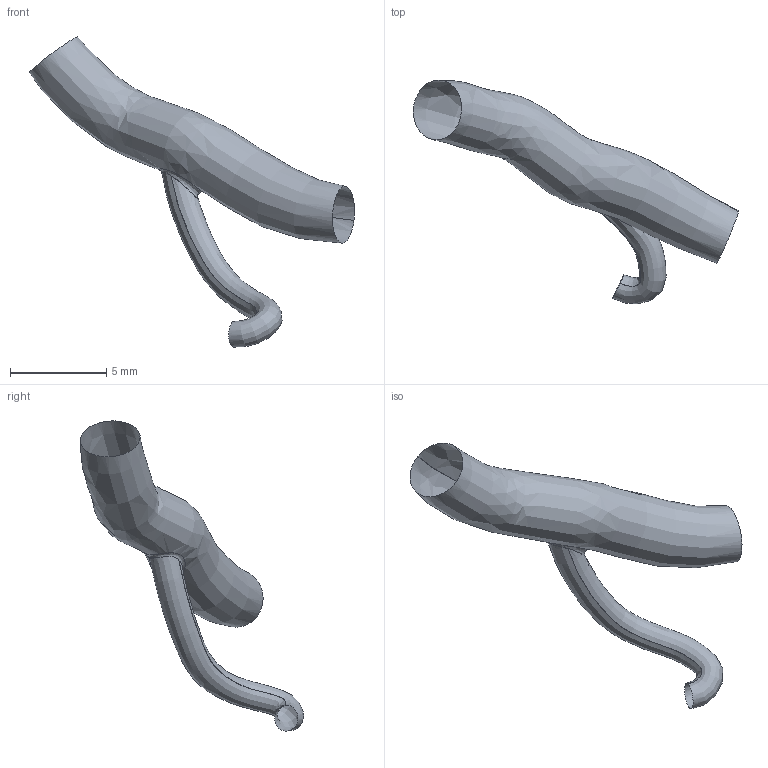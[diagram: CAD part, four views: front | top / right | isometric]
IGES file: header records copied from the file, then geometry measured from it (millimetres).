
Global section: file name: C:\Documents and Settings\Administrator\Desktop\FDA-Pig\Domestic RCA\Pig_000010\rv.es.igs; native system: Rhinoceros ( May 19 2006 ); preprocessor: Trout Lake IGES 012 May 19 2006; date: 111205.185543; units: centimetre
Bounding box: 16.9 x 11.61 x 16.13 mm (x, y, z)
Surface area: 261.4 mm2 (no closed solid volume)
Topology: 0 solids, 0 shells, 3 faces, 41 edges, 38 vertices
Faces by surface type: bspline 3
